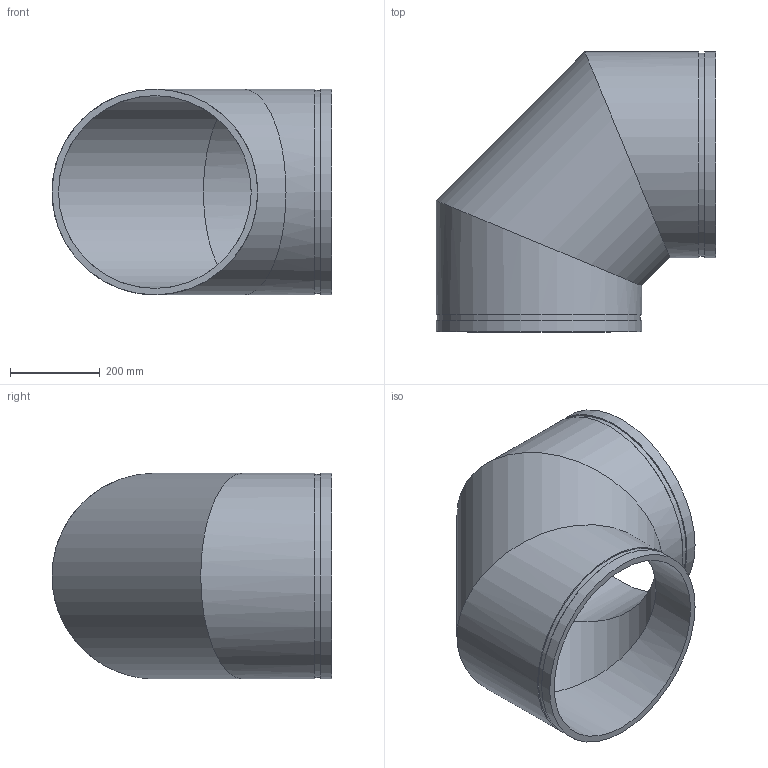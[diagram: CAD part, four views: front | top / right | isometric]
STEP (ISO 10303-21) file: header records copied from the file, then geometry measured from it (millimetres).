
FILE_DESCRIPTION(/* description */ ('VIC 90 DEG ELBOW FABRICATED No 10 SWS (OGS)','CAx-IF Rec.Pracs.---Representation and Presentation of Product Manufacturing Information (PMI)---4.0---2014-10-13'),/* implementation_level */ '2;1');
FILE_NAME(/* name */ 'C:\Users\kkamble\AppData\Roaming\Autodesk\ApplicationPlugins\Back Up\Victaulic_IPS_Elbow 90 Deg_No 10 SWS (OGS)\Victaulic_IPS_Elbow 90 Deg_No 10 SWS (OGS)_18 (450).stp',/* time_stamp */ '2020-09-16T22:18:17+06:00',/* author */ ('cgray'),/* organization */ ('Victaulic'),/* preprocessor_version */ 'ST-DEVELOPER v17.2',/* originating_system */ 'Autodesk Inventor 2019',/* authorisation */ '');
FILE_SCHEMA (('AP242_MANAGED_MODEL_BASED_3D_ENGINEERING_MIM_LF { 1 0 10303 442 1 1 4 }'));
Length unit declared in the file: inch
Products named in the file (1): 10 SWS-18.0
Bounding box: 622.3 x 622.3 x 457.2 mm (x, y, z)
Volume: 13271986.4 mm3; surface area: 1925534.4 mm2
Topology: 1 solids, 1 shells, 16 faces, 38 edges, 28 vertices
Faces by surface type: cylinder 10, plane 6
Full cylindrical faces by diameter (mm): 428.6 x3, 451.637 x2, 457.2 x5
Entity records: 646 total; most frequent: DIRECTION 126, CARTESIAN_POINT 100, ORIENTED_EDGE 76, AXIS2_PLACEMENT_3D 58, EDGE_CURVE 38, VERTEX_POINT 28, EDGE_LOOP 22, STYLED_ITEM 18
